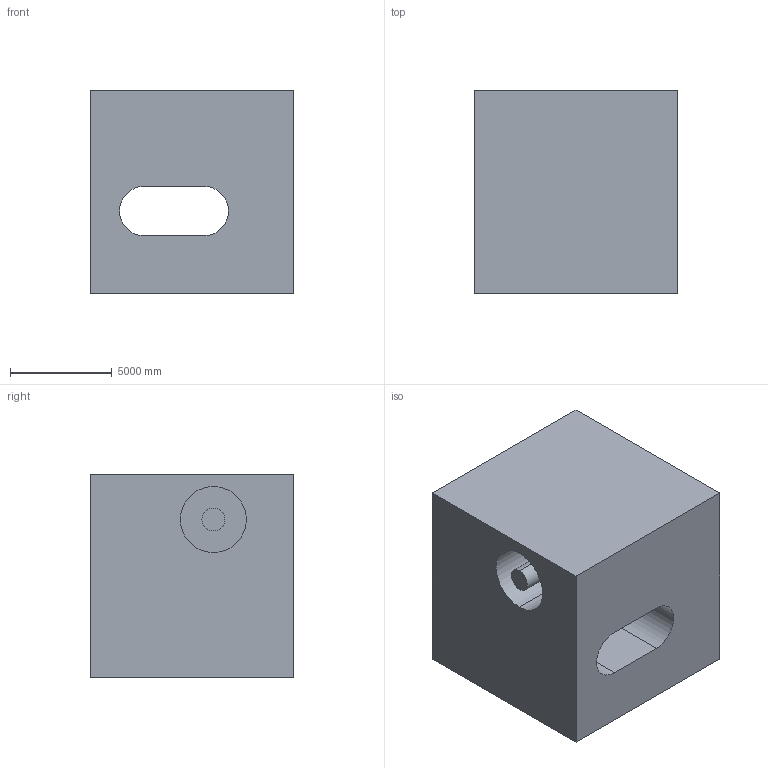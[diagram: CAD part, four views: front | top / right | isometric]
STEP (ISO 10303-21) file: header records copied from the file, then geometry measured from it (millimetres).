
FILE_DESCRIPTION (( 'STEP AP203' ), '1' );
FILE_NAME ('1193.STEP', '2022-08-18T13:07:37', ( 'user' ), ( '' ), 'SwSTEP 2.0', 'SolidWorks 2021', '' );
FILE_SCHEMA (( 'CONFIG_CONTROL_DESIGN' ));
Length unit declared in the file: centimetre
Products named in the file (1): 1193
Bounding box: 10000 x 10000 x 10000 mm (x, y, z)
Volume: 844332858475.7 mm3; surface area: 783543018.7 mm2
Topology: 1 solids, 1 shells, 16 faces, 36 edges, 24 vertices
Faces by surface type: plane 10, cylinder 6
Entity records: 533 total; most frequent: DIRECTION 82, CARTESIAN_POINT 77, ORIENTED_EDGE 72, EDGE_CURVE 36, AXIS2_PLACEMENT_3D 29, VECTOR 24, VERTEX_POINT 24, LINE 24
